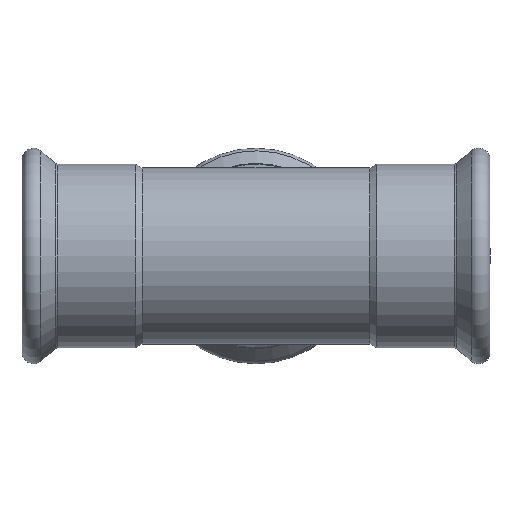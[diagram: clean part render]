
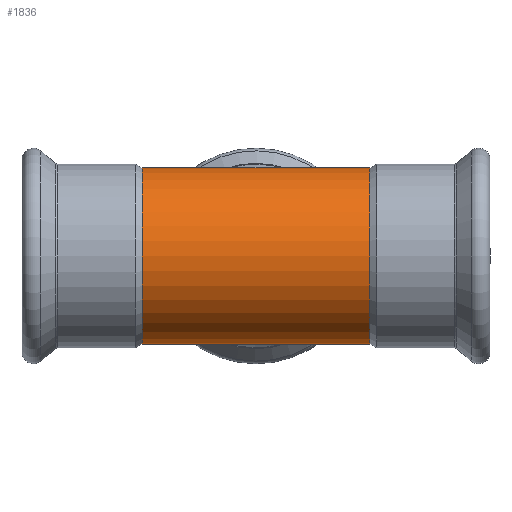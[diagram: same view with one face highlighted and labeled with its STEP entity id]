
A CAD part, front view. The second image highlights one B-rep face of the part: STEP entity #1836.
In plain terms, the highlighted cylindrical face has radius 54 mm (diameter 108 mm), a full revolution.
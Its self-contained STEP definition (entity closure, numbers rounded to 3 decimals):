
#1449=CARTESIAN_POINT('',(0.,0.0,-54.0));
#1450=VERTEX_POINT('',#1449);
#1451=CARTESIAN_POINT('',(0.,0.0,54.0));
#1452=VERTEX_POINT('',#1451);
#1460=CARTESIAN_POINT('',(0.0,0.0,0.0));
#1461=DIRECTION('',(-0.694,0.72,0.));
#1462=DIRECTION('',(0.72,0.694,0.0));
#1463=AXIS2_PLACEMENT_3D('',#1460,#1461,#1462);
#1464=ELLIPSE('',#1463,77.795,54.);
#1465=EDGE_CURVE('',#1452,#1450,#1464,.T.);
#1698=CARTESIAN_POINT('',(0.0,0.0,0.0));
#1699=DIRECTION('',(0.694,0.72,0.));
#1700=DIRECTION('',(-0.72,0.694,0.0));
#1701=AXIS2_PLACEMENT_3D('',#1698,#1699,#1700);
#1702=ELLIPSE('',#1701,77.795,54.);
#1703=EDGE_CURVE('',#1450,#1452,#1702,.T.);
#1798=CARTESIAN_POINT('',(-69.894,54.0,0.0));
#1799=VERTEX_POINT('',#1798);
#1800=CARTESIAN_POINT('',(-69.894,0.,0.0));
#1801=DIRECTION('',(1.0,0.0,0.0));
#1802=DIRECTION('',(0.0,1.0,0.0));
#1803=AXIS2_PLACEMENT_3D('',#1800,#1801,#1802);
#1804=CIRCLE('',#1803,54.);
#1805=EDGE_CURVE('',#1799,#1799,#1804,.T.);
#1813=CARTESIAN_POINT('',(0.,0.,0.0));
#1814=DIRECTION('',(1.0,0.,0.0));
#1815=DIRECTION('',(0.0,1.0,0.0));
#1816=AXIS2_PLACEMENT_3D('',#1813,#1814,#1815);
#1817=CYLINDRICAL_SURFACE('',#1816,54.);
#1818=CARTESIAN_POINT('',(69.894,54.,0.0));
#1819=VERTEX_POINT('',#1818);
#1820=CARTESIAN_POINT('',(69.894,0.,0.0));
#1821=DIRECTION('',(1.0,0.0,0.0));
#1822=DIRECTION('',(0.0,1.0,0.0));
#1823=AXIS2_PLACEMENT_3D('',#1820,#1821,#1822);
#1824=CIRCLE('',#1823,54.);
#1825=EDGE_CURVE('',#1819,#1819,#1824,.T.);
#1826=ORIENTED_EDGE('',*,*,#1825,.F.);
#1827=EDGE_LOOP('',(#1826));
#1828=FACE_OUTER_BOUND('',#1827,.T.);
#1829=ORIENTED_EDGE('',*,*,#1465,.F.);
#1830=ORIENTED_EDGE('',*,*,#1703,.F.);
#1831=EDGE_LOOP('',(#1829,#1830));
#1832=FACE_BOUND('',#1831,.T.);
#1833=ORIENTED_EDGE('',*,*,#1805,.T.);
#1834=EDGE_LOOP('',(#1833));
#1835=FACE_BOUND('',#1834,.T.);
#1836=ADVANCED_FACE('',(#1828,#1832,#1835),#1817,.T.);
